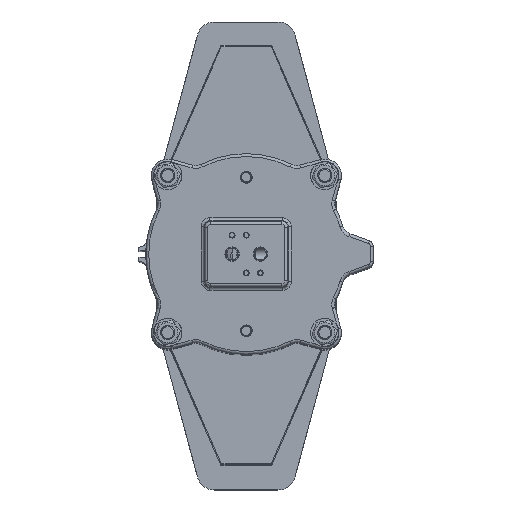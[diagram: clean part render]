
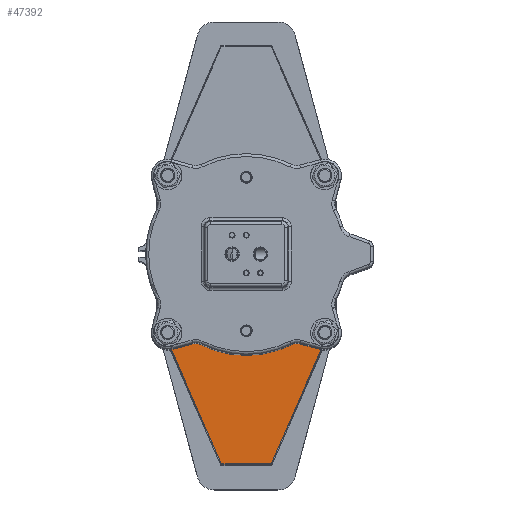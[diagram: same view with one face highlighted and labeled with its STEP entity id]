
A CAD part, top view. The second image highlights one B-rep face of the part: STEP entity #47392.
In plain terms, the highlighted planar face has unit normal (0, 0, 1).
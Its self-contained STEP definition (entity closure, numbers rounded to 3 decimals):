
#2517=PLANE('',#51869);
#4972=FACE_OUTER_BOUND('',#7975,.T.);
#7975=EDGE_LOOP('',(#37241,#37242,#37243,#37244,#37245,#37246,#37247,#37248,
#37249,#37250,#37251,#37252));
#10611=LINE('',#86285,#13602);
#10613=LINE('',#86291,#13604);
#10619=LINE('',#86303,#13610);
#10896=LINE('',#87112,#13887);
#10898=LINE('',#87117,#13889);
#10901=LINE('',#87122,#13892);
#10902=LINE('',#87125,#13893);
#10904=LINE('',#87128,#13895);
#10905=LINE('',#87130,#13896);
#10906=LINE('',#87134,#13897);
#13602=VECTOR('',#61037,10.);
#13604=VECTOR('',#61041,10.);
#13610=VECTOR('',#61049,10.);
#13887=VECTOR('',#61874,10.);
#13889=VECTOR('',#61878,10.);
#13892=VECTOR('',#61883,10.);
#13893=VECTOR('',#61886,10.);
#13895=VECTOR('',#61890,10.);
#13896=VECTOR('',#61893,10.);
#13897=VECTOR('',#61900,10.);
#17249=CIRCLE('',#51870,9.5);
#17250=CIRCLE('',#51871,9.5);
#20741=VERTEX_POINT('',#86279);
#20743=VERTEX_POINT('',#86283);
#20744=VERTEX_POINT('',#86287);
#20746=VERTEX_POINT('',#86290);
#20749=VERTEX_POINT('',#86297);
#20751=VERTEX_POINT('',#86301);
#21008=VERTEX_POINT('',#87108);
#21009=VERTEX_POINT('',#87110);
#21010=VERTEX_POINT('',#87114);
#21011=VERTEX_POINT('',#87116);
#21012=VERTEX_POINT('',#87120);
#21013=VERTEX_POINT('',#87124);
#26409=EDGE_CURVE('',#20743,#20741,#10611,.T.);
#26411=EDGE_CURVE('',#20744,#20746,#10613,.T.);
#26417=EDGE_CURVE('',#20751,#20749,#10619,.T.);
#26828=EDGE_CURVE('',#21008,#21009,#10896,.T.);
#26830=EDGE_CURVE('',#21011,#21010,#10898,.T.);
#26833=EDGE_CURVE('',#21012,#21009,#10901,.T.);
#26834=EDGE_CURVE('',#21011,#21013,#10902,.T.);
#26836=EDGE_CURVE('',#21013,#20743,#10904,.T.);
#26837=EDGE_CURVE('',#20746,#21012,#10905,.T.);
#26838=EDGE_CURVE('',#20749,#20744,#17249,.T.);
#26839=EDGE_CURVE('',#20741,#20751,#17250,.T.);
#26840=EDGE_CURVE('',#21008,#21010,#10906,.T.);
#37241=ORIENTED_EDGE('',*,*,#26838,.F.);
#37242=ORIENTED_EDGE('',*,*,#26417,.F.);
#37243=ORIENTED_EDGE('',*,*,#26839,.F.);
#37244=ORIENTED_EDGE('',*,*,#26409,.F.);
#37245=ORIENTED_EDGE('',*,*,#26836,.F.);
#37246=ORIENTED_EDGE('',*,*,#26834,.F.);
#37247=ORIENTED_EDGE('',*,*,#26830,.T.);
#37248=ORIENTED_EDGE('',*,*,#26840,.F.);
#37249=ORIENTED_EDGE('',*,*,#26828,.T.);
#37250=ORIENTED_EDGE('',*,*,#26833,.F.);
#37251=ORIENTED_EDGE('',*,*,#26837,.F.);
#37252=ORIENTED_EDGE('',*,*,#26411,.F.);
#47392=ADVANCED_FACE('',(#4972),#2517,.F.);
#51869=AXIS2_PLACEMENT_3D('',#87131,#61894,#61895);
#51870=AXIS2_PLACEMENT_3D('',#87132,#61896,#61897);
#51871=AXIS2_PLACEMENT_3D('',#87133,#61898,#61899);
#61037=DIRECTION('',(1.,0.,0.));
#61041=DIRECTION('',(1.,0.,0.));
#61049=DIRECTION('',(1.,0.,0.));
#61874=DIRECTION('',(1.,0.,0.));
#61878=DIRECTION('',(1.,0.,0.));
#61883=DIRECTION('',(-0.401,-0.916,0.));
#61886=DIRECTION('',(-0.401,0.916,0.));
#61890=DIRECTION('',(0.,1.,0.));
#61893=DIRECTION('',(0.,-1.,0.));
#61894=DIRECTION('center_axis',(0.,0.,
-1.));
#61895=DIRECTION('ref_axis',(-1.,0.,0.));
#61896=DIRECTION('center_axis',(0.,0.,
1.));
#61897=DIRECTION('ref_axis',(-0.866,-0.5,0.));
#61898=DIRECTION('center_axis',(0.,0.,
1.));
#61899=DIRECTION('ref_axis',(0.866,-0.5,0.));
#61900=DIRECTION('',(-1.,0.,0.));
#86279=CARTESIAN_POINT('',(-124.077,-76.564,594.618));
#86283=CARTESIAN_POINT('',(-133.036,-76.564,594.618));
#86285=CARTESIAN_POINT('',(-133.036,-76.564,594.618));
#86287=CARTESIAN_POINT('',(-7.994,-76.564,594.618));
#86290=CARTESIAN_POINT('',(0.964,-76.564,594.618));
#86291=CARTESIAN_POINT('',(-133.036,-76.564,594.618));
#86297=CARTESIAN_POINT('',(-14.077,-76.564,594.618));
#86301=CARTESIAN_POINT('',(-117.994,-76.564,594.618));
#86303=CARTESIAN_POINT('',(-133.036,-76.564,594.618));
#87108=CARTESIAN_POINT('',(-45.494,-193.864,594.618));
#87110=CARTESIAN_POINT('',(-44.881,-193.864,594.618));
#87112=CARTESIAN_POINT('',(-76.613,-193.864,594.618));
#87114=CARTESIAN_POINT('',(-86.577,-193.864,594.618));
#87116=CARTESIAN_POINT('',(-87.19,-193.864,594.618));
#87117=CARTESIAN_POINT('',(-76.613,-193.864,594.618));
#87120=CARTESIAN_POINT('',(0.964,-89.064,594.618));
#87122=CARTESIAN_POINT('',(0.964,-89.064,594.618));
#87124=CARTESIAN_POINT('',(-133.036,-89.064,594.618));
#87125=CARTESIAN_POINT('',(-86.577,-195.264,594.618));
#87128=CARTESIAN_POINT('',(-133.036,-89.064,594.618));
#87130=CARTESIAN_POINT('',(0.964,-76.564,594.618));
#87131=CARTESIAN_POINT('Origin',(-66.036,-123.428,594.618));
#87132=CARTESIAN_POINT('Origin',(-11.036,-67.564,594.618));
#87133=CARTESIAN_POINT('Origin',(-121.036,-67.564,594.618));
#87134=CARTESIAN_POINT('',(-86.577,-193.864,594.618));
